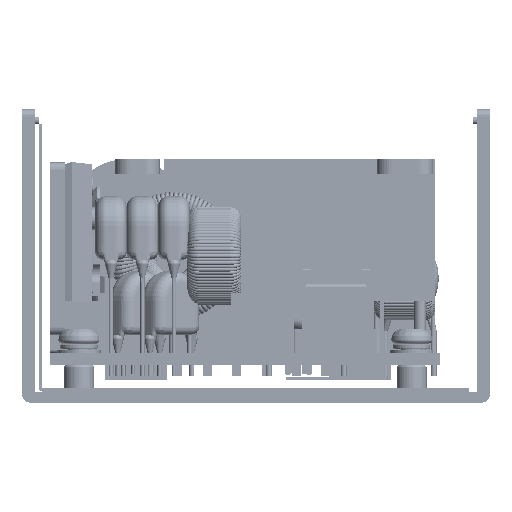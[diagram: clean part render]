
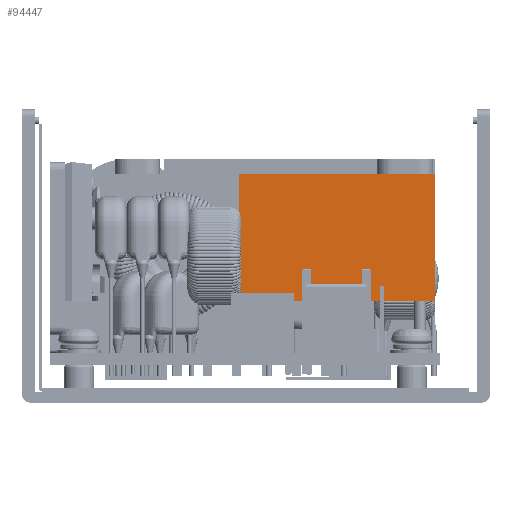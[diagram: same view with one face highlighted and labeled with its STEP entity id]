
A CAD part, left-side view. The second image highlights one B-rep face of the part: STEP entity #94447.
In plain terms, the highlighted planar face has unit normal (-1, 0, 0).
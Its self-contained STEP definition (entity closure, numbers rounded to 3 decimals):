
#11736=PLANE($,#101715);
#13044=FACE_OUTER_BOUND($,#20180,.T.);
#20180=EDGE_LOOP($,(#62659,#62660,#62661,#62662));
#27532=LINE($,#149272,#31372);
#27533=LINE($,#149275,#31373);
#27534=LINE($,#149277,#31374);
#27535=LINE($,#149278,#31375);
#31372=VECTOR($,#116660,17.);
#31373=VECTOR($,#116663,26.245);
#31374=VECTOR($,#116664,26.245);
#31375=VECTOR($,#116665,17.);
#42090=VERTEX_POINT($,#149268);
#42091=VERTEX_POINT($,#149270);
#42092=VERTEX_POINT($,#149274);
#42093=VERTEX_POINT($,#149276);
#48857=EDGE_CURVE($,#42090,#42091,#27532,.T.);
#48858=EDGE_CURVE($,#42090,#42092,#27533,.T.);
#48859=EDGE_CURVE($,#42093,#42091,#27534,.T.);
#48860=EDGE_CURVE($,#42092,#42093,#27535,.T.);
#62659=ORIENTED_EDGE($,*,*,#48858,.F.);
#62660=ORIENTED_EDGE($,*,*,#48857,.T.);
#62661=ORIENTED_EDGE($,*,*,#48859,.F.);
#62662=ORIENTED_EDGE($,*,*,#48860,.F.);
#94447=ADVANCED_FACE($,(#13044),#11736,.T.);
#101715=AXIS2_PLACEMENT_3D($,#149273,#116661,#116662);
#116660=DIRECTION($,(0.,0.,1.));
#116661=DIRECTION('center_axis',(-1.,0.,0.));
#116662=DIRECTION('ref_axis',(0.,-1.,0.));
#116663=DIRECTION($,(0.,1.,0.));
#116664=DIRECTION($,(0.,-1.,0.));
#116665=DIRECTION($,(0.,0.,1.));
#149268=CARTESIAN_POINT('',(14.415,2.978,8.6));
#149270=CARTESIAN_POINT('',(14.415,2.978,25.6));
#149272=CARTESIAN_POINT($,(14.415,2.978,8.6));
#149273=CARTESIAN_POINT('Origin',(14.415,29.223,8.6));
#149274=CARTESIAN_POINT('',(14.415,29.223,8.6));
#149275=CARTESIAN_POINT($,(14.415,2.978,8.6));
#149276=CARTESIAN_POINT('',(14.415,29.223,25.6));
#149277=CARTESIAN_POINT($,(14.415,2.978,25.6));
#149278=CARTESIAN_POINT($,(14.415,29.223,8.6));
